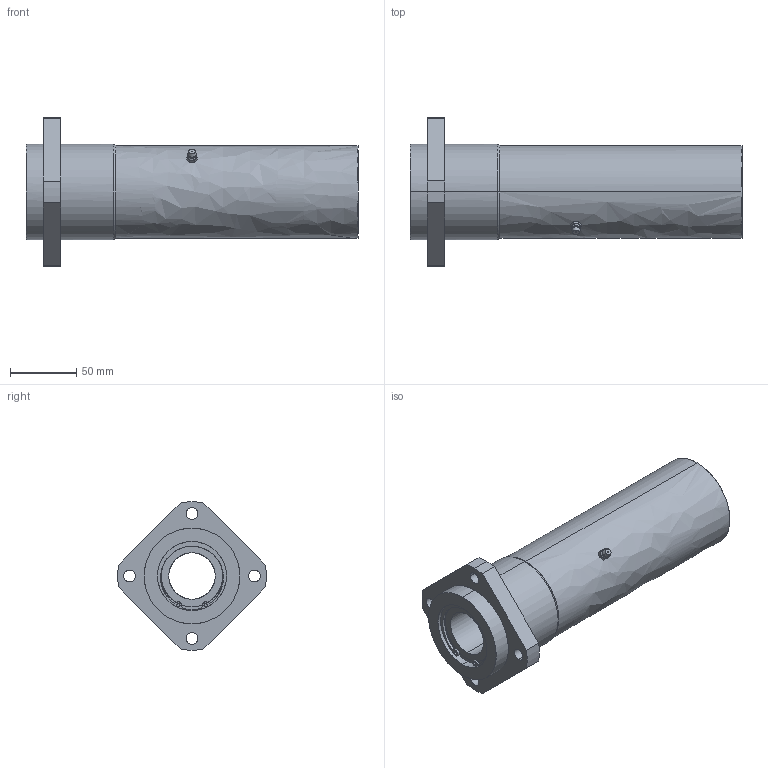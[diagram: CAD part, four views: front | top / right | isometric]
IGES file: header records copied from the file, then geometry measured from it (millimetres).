
Global section: file name: No Iges File Name specified; native system: AutoDesk Inventor R10; preprocessor: AutoDesk Inventor Iges Exporter R10; author: No Author specified; organization: No Organization specified; date: 20101214.141406; units: millimetre
Bounding box: 250 x 111.86 x 112 mm (x, y, z)
Surface area: 109716.7 mm2 (no closed solid volume)
Topology: 0 solids, 0 shells, 162 faces, 1129 edges, 1127 vertices
Faces by surface type: bspline 162
